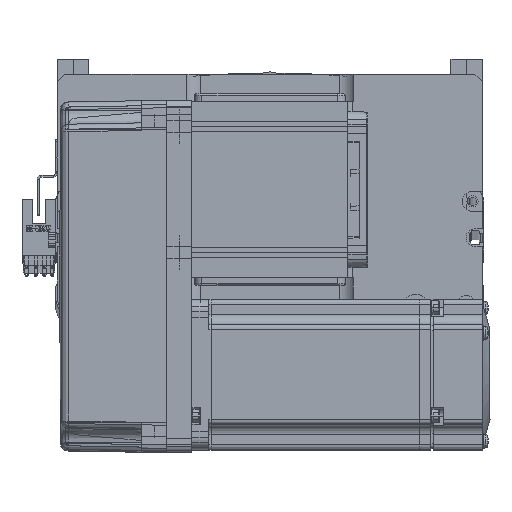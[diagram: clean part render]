
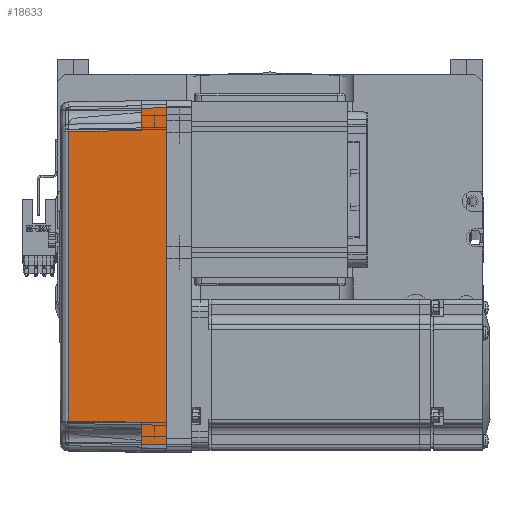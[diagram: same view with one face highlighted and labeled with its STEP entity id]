
A CAD part, top view. The second image highlights one B-rep face of the part: STEP entity #18633.
In plain terms, the highlighted planar face has unit normal (-0.018, 0, 1) as drawn and (0, -1, 0.017) by its records, which use the part's own axes.
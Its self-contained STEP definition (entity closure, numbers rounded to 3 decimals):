
#1452 = EDGE_CURVE ( 'NONE', #8240, #3161, #8332, .T. ) ;
#2662 = CARTESIAN_POINT ( 'NONE',  ( -19.165, -35.316, 39.181 ) ) ;
#3161 = VERTEX_POINT ( 'NONE', #23016 ) ;
#4551 = VERTEX_POINT ( 'NONE', #39160 ) ;
#7024 = ORIENTED_EDGE ( 'NONE', *, *, #39608, .T. ) ;
#7624 = VERTEX_POINT ( 'NONE', #43349 ) ;
#8240 = VERTEX_POINT ( 'NONE', #11960 ) ;
#8332 = LINE ( 'NONE', #60864, #47923 ) ;
#10267 = DIRECTION ( 'NONE',  ( -1., 0., 0. ) ) ;
#10359 = ORIENTED_EDGE ( 'NONE', *, *, #40384, .T. ) ;
#11960 = CARTESIAN_POINT ( 'NONE',  ( -58., -35.825, 10. ) ) ;
#12250 = EDGE_CURVE ( 'NONE', #7624, #3161, #25638, .T. ) ;
#12379 = CARTESIAN_POINT ( 'NONE',  ( 67., -36., 0. ) ) ;
#12820 = EDGE_CURVE ( 'NONE', #32719, #8240, #19923, .T. ) ;
#13010 = CARTESIAN_POINT ( 'NONE',  ( -66.959, -35.958, 2.39 ) ) ;
#17281 = CARTESIAN_POINT ( 'NONE',  ( 57.495, -35.32, 38.985 ) ) ;
#17981 = DIRECTION ( 'NONE',  ( 0.017, 0.017, 1. ) ) ;
#18280 = VECTOR ( 'NONE', #45989, 1000. ) ;
#18331 = ORIENTED_EDGE ( 'NONE', *, *, #59567, .F. ) ;
#18633 = ADVANCED_FACE ( 'NONE', ( #48158 ), #62314, .T. ) ;
#19923 = LINE ( 'NONE', #61796, #54628 ) ;
#20130 = DIRECTION ( 'NONE',  ( 0., -0.017, -1. ) ) ;
#20343 = B_SPLINE_CURVE_WITH_KNOTS ( 'NONE', 3,
 ( #42896, #27565, #2662, #58874 ),
 .UNSPECIFIED., .F., .F.,
 ( 4, 4 ),
 ( 0., 1. ),
 .UNSPECIFIED. ) ;
#20759 = VECTOR ( 'NONE', #17981, 1000. ) ;
#23016 = CARTESIAN_POINT ( 'NONE',  ( -66.826, -35.825, 10. ) ) ;
#25638 = LINE ( 'NONE', #13010, #20759 ) ;
#26865 = LINE ( 'NONE', #44050, #38956 ) ;
#27565 = CARTESIAN_POINT ( 'NONE',  ( 19.165, -35.316, 39.181 ) ) ;
#28044 = VERTEX_POINT ( 'NONE', #59302 ) ;
#28186 = CARTESIAN_POINT ( 'NONE',  ( 67., -36., 0. ) ) ;
#32719 = VERTEX_POINT ( 'NONE', #56301 ) ;
#33815 = ORIENTED_EDGE ( 'NONE', *, *, #12820, .T. ) ;
#34473 = CARTESIAN_POINT ( 'NONE',  ( 58., -35.825, 10. ) ) ;
#34629 = ORIENTED_EDGE ( 'NONE', *, *, #39740, .T. ) ;
#34748 = CARTESIAN_POINT ( 'NONE',  ( 70., -35.825, 10. ) ) ;
#35178 = LINE ( 'NONE', #34473, #55343 ) ;
#35349 = EDGE_LOOP ( 'NONE', ( #7024, #34629, #10359, #50167, #33815, #60719, #42598, #18331 ) ) ;
#36072 = LINE ( 'NONE', #34748, #18280 ) ;
#38956 = VECTOR ( 'NONE', #65274, 1000. ) ;
#39160 = CARTESIAN_POINT ( 'NONE',  ( 58., -35.825, 10. ) ) ;
#39608 = EDGE_CURVE ( 'NONE', #39649, #28044, #49864, .T. ) ;
#39647 = DIRECTION ( 'NONE',  ( -0.017, 0.017, 1. ) ) ;
#39649 = VERTEX_POINT ( 'NONE', #12379 ) ;
#39740 = EDGE_CURVE ( 'NONE', #28044, #4551, #36072, .T. ) ;
#40384 = EDGE_CURVE ( 'NONE', #4551, #53252, #35178, .T. ) ;
#41053 = DIRECTION ( 'NONE',  ( -0.017, -0.017, -1. ) ) ;
#42598 = ORIENTED_EDGE ( 'NONE', *, *, #12250, .F. ) ;
#42896 = CARTESIAN_POINT ( 'NONE',  ( 57.495, -35.32, 38.985 ) ) ;
#43349 = CARTESIAN_POINT ( 'NONE',  ( -67., -36., 0. ) ) ;
#43513 = DIRECTION ( 'NONE',  ( -0.017, 0.017, 1. ) ) ;
#44050 = CARTESIAN_POINT ( 'NONE',  ( 0., -36., 0. ) ) ;
#44306 = EDGE_CURVE ( 'NONE', #53252, #32719, #20343, .T. ) ;
#45989 = DIRECTION ( 'NONE',  ( -1., 0., 0. ) ) ;
#47923 = VECTOR ( 'NONE', #10267, 1000. ) ;
#48158 = FACE_OUTER_BOUND ( 'NONE', #35349, .T. ) ;
#49864 = LINE ( 'NONE', #28186, #60323 ) ;
#50167 = ORIENTED_EDGE ( 'NONE', *, *, #44306, .T. ) ;
#51061 = DIRECTION ( 'NONE',  ( 0., -1., 0.017 ) ) ;
#51303 = CARTESIAN_POINT ( 'NONE',  ( 70., -36., 0. ) ) ;
#53252 = VERTEX_POINT ( 'NONE', #17281 ) ;
#54628 = VECTOR ( 'NONE', #41053, 1000. ) ;
#55343 = VECTOR ( 'NONE', #39647, 1000. ) ;
#56301 = CARTESIAN_POINT ( 'NONE',  ( -57.495, -35.32, 38.985 ) ) ;
#58784 = AXIS2_PLACEMENT_3D ( 'NONE', #51303, #51061, #20130 ) ;
#58874 = CARTESIAN_POINT ( 'NONE',  ( -57.495, -35.32, 38.985 ) ) ;
#59302 = CARTESIAN_POINT ( 'NONE',  ( 66.826, -35.825, 10. ) ) ;
#59567 = EDGE_CURVE ( 'NONE', #39649, #7624, #26865, .T. ) ;
#60323 = VECTOR ( 'NONE', #43513, 1000. ) ;
#60719 = ORIENTED_EDGE ( 'NONE', *, *, #1452, .T. ) ;
#60864 = CARTESIAN_POINT ( 'NONE',  ( 70., -35.825, 10. ) ) ;
#61796 = CARTESIAN_POINT ( 'NONE',  ( -57.495, -35.32, 38.985 ) ) ;
#62314 = PLANE ( 'NONE',  #58784 ) ;
#65274 = DIRECTION ( 'NONE',  ( -1., 0., 0. ) ) ;
